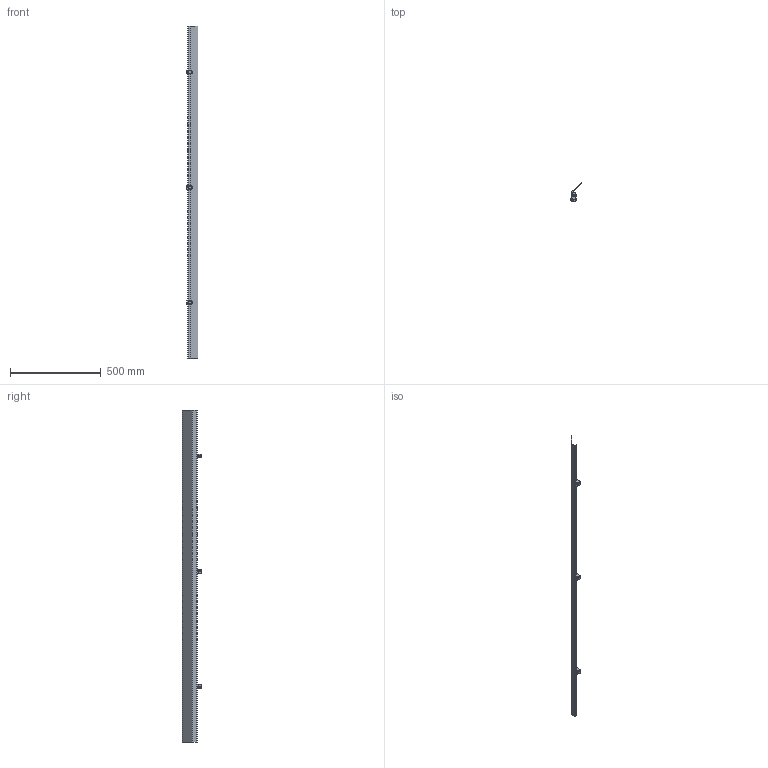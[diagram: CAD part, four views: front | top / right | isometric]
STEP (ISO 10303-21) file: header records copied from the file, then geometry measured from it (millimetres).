
FILE_DESCRIPTION (( 'STEP AP203' ), '1' );
FILE_NAME ('280806M.STEP', '2021-10-25T17:45:18', ( '' ), ( '' ), 'SwSTEP 2.0', 'SolidWorks 2019', '' );
FILE_SCHEMA (( 'CONFIG_CONTROL_DESIGN' ));
Length unit declared in the file: inch
Products named in the file (10): 9206XXM_920618M; 807-2005; 207128; 280806M; 639971M; Assem2^Assem1; 207127-LLLLL_207127-07200; 9206XXM_920630M
Assembly tree (19 placements, depth 3):
  280806M
    207127-LLLLL_207127-07200
    Assem2^Assem1
      207128
      639971M
      807-2005
      9206XXM_920618M
      9206XXM_920630M
    Assem2^Assem1
      207128
      639971M
      807-2005
      9206XXM_920618M
      9206XXM_920630M
    Assem2^Assem1
      207128
      639971M
      807-2005
      9206XXM_920618M
      9206XXM_920630M
Bounding box: 62.88 x 105.14 x 1828.8 mm (x, y, z)
Volume: 448521.8 mm3; surface area: 445647.3 mm2
Topology: 16 solids, 16 shells, 406 faces, 917 edges, 570 vertices
Faces by surface type: plane 207, cylinder 103, cone 90, bspline 6
Entity records: 5895 total; most frequent: CARTESIAN_POINT 1152, DIRECTION 749, ORIENTED_EDGE 670, EDGE_CURVE 335, AXIS2_PLACEMENT_3D 275, VERTEX_POINT 206, VECTOR 199, LINE 199
